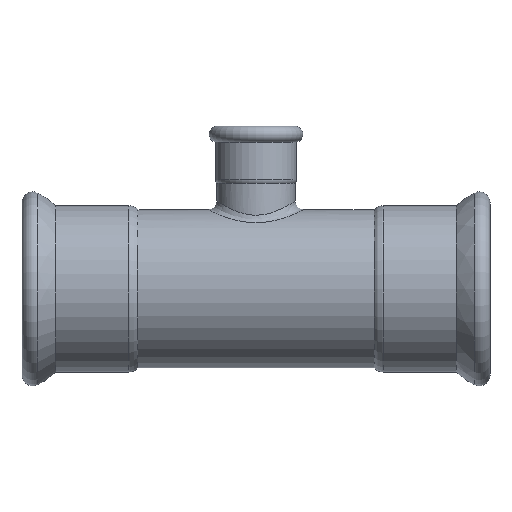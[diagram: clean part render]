
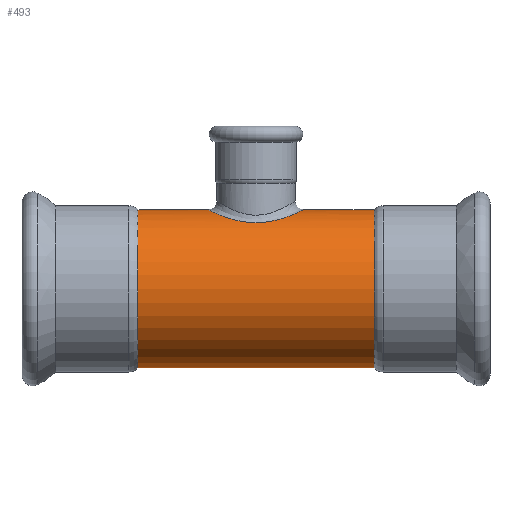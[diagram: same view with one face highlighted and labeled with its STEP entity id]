
A CAD part, front view. The second image highlights one B-rep face of the part: STEP entity #493.
In plain terms, the highlighted cylindrical face has radius 44.45 mm (diameter 88.9 mm), a full revolution.
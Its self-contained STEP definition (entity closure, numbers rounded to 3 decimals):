
#20=B_SPLINE_CURVE_WITH_KNOTS($,3,(#1304,#1305,#1306,#1307,#1308,#1309,
#1310,#1311,#1312,#1313,#1314,#1315,#1316,#1317,#1318,#1319,#1320,#1321,
#1322,#1323,#1324,#1325,#1326,#1327,#1328,#1329,#1330),.UNSPECIFIED.,.T.,
 .F.,(4,1,1,1,1,1,1,1,1,1,1,1,1,1,1,1,1,1,1,1,1,3,4),(-13.524,
-13.041,-12.558,-11.592,-10.948,
-10.304,-9.66,-9.016,-8.372,
-7.728,-7.084,-6.44,-5.796,
-4.508,-3.864,-3.381,-2.898,
-2.415,-1.932,-0.966,-0.483,
0.,0.),.UNSPECIFIED.);
#64=FACE_BOUND($,#169,.T.);
#65=FACE_BOUND($,#170,.T.);
#109=FACE_OUTER_BOUND($,#168,.T.);
#168=EDGE_LOOP($,(#409));
#169=EDGE_LOOP($,(#410));
#170=EDGE_LOOP($,(#411));
#240=CIRCLE($,#566,44.45);
#241=CIRCLE($,#567,44.45);
#285=VERTEX_POINT($,#1274);
#287=VERTEX_POINT($,#1333);
#288=VERTEX_POINT($,#1335);
#337=EDGE_CURVE($,#285,#285,#20,.T.);
#338=EDGE_CURVE($,#287,#287,#240,.T.);
#339=EDGE_CURVE($,#288,#288,#241,.T.);
#409=ORIENTED_EDGE($,*,*,#338,.F.);
#410=ORIENTED_EDGE($,*,*,#339,.T.);
#411=ORIENTED_EDGE($,*,*,#337,.F.);
#464=CYLINDRICAL_SURFACE($,#565,44.45);
#493=ADVANCED_FACE($,(#109,#64,#65),#464,.T.);
#565=AXIS2_PLACEMENT_3D($,#1332,#699,#700);
#566=AXIS2_PLACEMENT_3D($,#1334,#701,#702);
#567=AXIS2_PLACEMENT_3D($,#1336,#703,#704);
#699=DIRECTION('center_axis',(1.,0.,0.));
#700=DIRECTION('ref_axis',(0.,1.,0.));
#701=DIRECTION('center_axis',(1.,0.,0.));
#702=DIRECTION('ref_axis',(0.,1.,0.));
#703=DIRECTION('center_axis',(1.,0.,0.));
#704=DIRECTION('ref_axis',(0.,1.,0.));
#1274=CARTESIAN_POINT('',(-131.5,-24.27,37.239));
#1304=CARTESIAN_POINT('Ctrl Pts',(-131.5,-24.27,37.239));
#1305=CARTESIAN_POINT('Ctrl Pts',(-129.447,-24.27,37.239));
#1306=CARTESIAN_POINT('Ctrl Pts',(-125.339,-23.849,37.519));
#1307=CARTESIAN_POINT('Ctrl Pts',(-117.63,-21.366,39.045));
#1308=CARTESIAN_POINT('Ctrl Pts',(-110.843,-16.48,41.521));
#1309=CARTESIAN_POINT('Ctrl Pts',(-106.043,-9.136,43.688));
#1310=CARTESIAN_POINT('Ctrl Pts',(-104.156,-1.877,44.622));
#1311=CARTESIAN_POINT('Ctrl Pts',(-104.798,5.612,44.299));
#1312=CARTESIAN_POINT('Ctrl Pts',(-107.87,12.466,42.833));
#1313=CARTESIAN_POINT('Ctrl Pts',(-112.893,18.06,40.732));
#1314=CARTESIAN_POINT('Ctrl Pts',(-119.491,22.139,38.602));
#1315=CARTESIAN_POINT('Ctrl Pts',(-127.344,24.365,37.182));
#1316=CARTESIAN_POINT('Ctrl Pts',(-135.705,24.361,37.18));
#1317=CARTESIAN_POINT('Ctrl Pts',(-146.146,21.37,39.099));
#1318=CARTESIAN_POINT('Ctrl Pts',(-154.124,14.725,42.362));
#1319=CARTESIAN_POINT('Ctrl Pts',(-157.956,6.148,44.178));
#1320=CARTESIAN_POINT('Ctrl Pts',(-158.738,-0.022,
44.569));
#1321=CARTESIAN_POINT('Ctrl Pts',(-158.016,-5.585,44.211));
#1322=CARTESIAN_POINT('Ctrl Pts',(-155.951,-10.765,43.225));
#1323=CARTESIAN_POINT('Ctrl Pts',(-151.617,-16.874,41.322));
#1324=CARTESIAN_POINT('Ctrl Pts',(-145.32,-21.387,39.033));
#1325=CARTESIAN_POINT('Ctrl Pts',(-137.677,-23.842,37.523));
#1326=CARTESIAN_POINT('Ctrl Pts',(-133.555,-24.27,37.239));
#1327=CARTESIAN_POINT('Ctrl Pts',(-131.501,-24.27,37.239));
#1328=CARTESIAN_POINT('Ctrl Pts',(-131.501,-24.27,37.239));
#1329=CARTESIAN_POINT('Ctrl Pts',(-131.5,-24.27,37.239));
#1330=CARTESIAN_POINT('Ctrl Pts',(-131.5,-24.27,37.239));
#1332=CARTESIAN_POINT('Origin',(-74.594,0.,0.));
#1333=CARTESIAN_POINT('',(-65.187,44.45,0.));
#1334=CARTESIAN_POINT('Origin',(-65.187,0.,0.));
#1335=CARTESIAN_POINT('',(-197.813,44.45,0.));
#1336=CARTESIAN_POINT('Origin',(-197.813,0.,0.));
